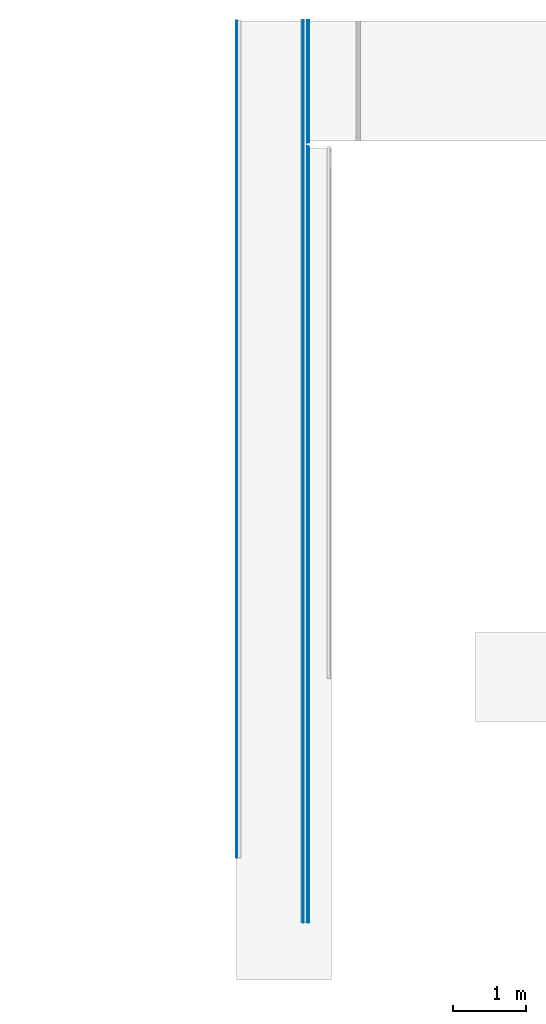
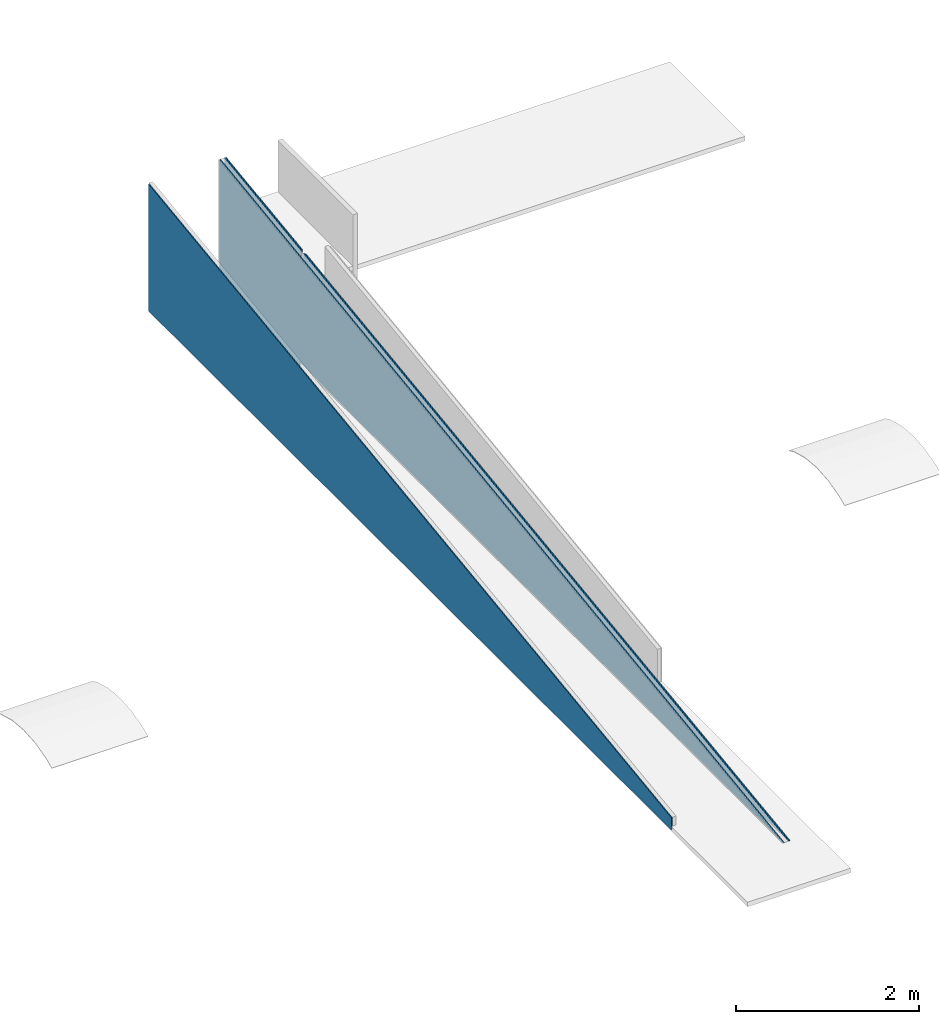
# One storey, part 3 of 4: 4 building element parts, 2 elements without a shape of their own.
"""IFC2X3 building model written with IfcOpenShell, lengths in metres."""

from ifc_helpers import new_model, entity, si_unit, converted_unit, derived_unit, money_unit, direction, frame, origin_with_axes, place, context, subcontext, project, spatial, polyline, outline, extrude, boolean, faceted_brep, material, type_object, element, aggregate, save


model = new_model("IFC2X3")

# Units and contexts
model_context = context("Model", 3, precision=1e-05, world=origin_with_axes(), true_north=direction((0.0, 1.0)))
body_context = subcontext(model_context, "Body", "Model", "MODEL_VIEW")
ifc_project = project(units=[si_unit("LENGTHUNIT", "METRE"), si_unit("AREAUNIT", "SQUARE_METRE"), si_unit("VOLUMEUNIT", "CUBIC_METRE"), converted_unit("PLANEANGLEUNIT", "DEGREE", entity("IfcPlaneAngleMeasure", 0.0174532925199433), si_unit("PLANEANGLEUNIT", "RADIAN"), dimensions=[0, 0, 0, 0, 0, 0, 0]), money_unit("CHF"), converted_unit("TIMEUNIT", "Year", entity("IfcTimeMeasure", 31557600.0), si_unit("TIMEUNIT", "SECOND"), dimensions=[0, 0, 1, 0, 0, 0, 0]), si_unit("MASSUNIT", "GRAM", prefix="KILO"), si_unit("THERMODYNAMICTEMPERATUREUNIT", "DEGREE_CELSIUS"), si_unit("LUMINOUSINTENSITYUNIT", "LUMEN"), si_unit("ENERGYUNIT", "JOULE", prefix="MEGA"), derived_unit("THERMALCONDUCTANCEUNIT", [(si_unit("POWERUNIT", "WATT"), 1), (si_unit("LENGTHUNIT", "METRE"), -1), (si_unit("THERMODYNAMICTEMPERATUREUNIT", "KELVIN"), -1)]), derived_unit("SPECIFICHEATCAPACITYUNIT", [(si_unit("ENERGYUNIT", "JOULE"), 1), (si_unit("MASSUNIT", "GRAM", prefix="KILO"), -1), (si_unit("THERMODYNAMICTEMPERATUREUNIT", "KELVIN"), -1)]), derived_unit("MASSDENSITYUNIT", [(si_unit("MASSUNIT", "GRAM", prefix="KILO"), 1), (si_unit("VOLUMEUNIT", "CUBIC_METRE"), -1)])], contexts=[model_context])

# Site, building, storey
site_placement = place(None, origin_with_axes())
site = spatial("IfcSite", under=ifc_project, at=site_placement, Name="Site", CompositionType="ELEMENT")
building_placement = place(site_placement, origin_with_axes())
building = spatial("IfcBuilding", under=site, at=building_placement, Name="Bâtiment", CompositionType="ELEMENT")
storey_placement = place(building_placement, frame((0.0, 0.0, 4.85), z_axis=(0.0, 0.0, 1.0), x_axis=(1.0, 0.0, 0.0)))
storey = spatial("IfcBuildingStorey", under=building, at=storey_placement, Name="1er étage", CompositionType="ELEMENT", Elevation=4.85)

# Wall, building element part
wall_type_1 = type_object("IfcWallType", Name="AL - Encoffrement: structure + 1x1 face 61", PredefinedType="ELEMENTEDWALL")
wall_1_placement = place(storey_placement, frame((25.91216849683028, 24.09673012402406, -1.980000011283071), z_axis=(0.0, 0.0, 1.0), x_axis=(3.982284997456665e-07, -0.9999999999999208, 0.0)))
wall_1 = element("IfcWall", 1, at=wall_1_placement, inside=storey, type_object=wall_type_1, Name="MUR_EXT-018", ObjectType="ELEMENTEDWALL")
ifc_material = material(Name="Finition int - Plaque de plâtre")
building_element_part_1_placement = place(wall_1_placement, origin_with_axes())
building_element_part_1 = element("IfcBuildingElementPart", 2, at=building_element_part_1_placement, material=ifc_material, Name="Finition int - Plaque de plâtre", context=body_context, shape_type="CSG", body=[
    boolean("DIFFERENCE", boolean("DIFFERENCE", boolean("DIFFERENCE", extrude(outline(polyline([(-0.6810000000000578, 0.0), (11.4402800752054, 0.0), (11.4402800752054, 0.01249999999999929), (-0.6810000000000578, 0.01249999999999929), (-0.6810000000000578, 0.0)])), origin_with_axes(), (0.0, 0.0, 1.0), 1.713257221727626), faceted_brep([(3.243780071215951e-07, 0.01249999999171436, 0.01249999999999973), (11.44028007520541, 0.01250000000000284, 0.01249999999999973), (11.4402800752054, 0.01249999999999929, 0.0), (-0.6810000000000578, 0.01249999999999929, 0.0), (-0.6810000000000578, 0.01249999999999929, 1.713257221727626), (11.4402800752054, 0.01249999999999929, 1.713257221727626), (11.44028007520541, 0.01249999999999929, 0.178348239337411), (6.7715149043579e-09, 0.01249999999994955, 1.703706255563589), (0.0, 0.0, 0.01249999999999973), (11.44028007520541, 0.0, 0.01249999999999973), (11.4402800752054, 0.0, 0.0), (-0.6810000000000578, 0.0, 0.0), (-0.6810000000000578, 0.0, 1.713257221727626), (11.4402800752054, 0.0, 1.713257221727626), (11.44028007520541, 0.0, 0.1783464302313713), (0.0, 0.0, 1.703704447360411)], [[[0, 1, 2, 3, 4, 5, 6, 7]], [[1, 0, 8, 9]], [[1, 9, 10, 2]], [[10, 11, 3, 2]], [[4, 3, 11, 12]], [[4, 12, 13, 5]], [[14, 6, 5, 13]], [[7, 6, 14, 15]], [[7, 15, 8, 0]], [[15, 14, 13, 12, 11, 10, 9, 8]]])), faceted_brep([(1.569989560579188e-06, 0.06049999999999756, 0.06050000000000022), (11.44028007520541, 0.06050000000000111, 0.06050000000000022), (11.44028007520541, 0.060499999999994, 0.0), (1.569989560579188e-06, 0.06049999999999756, 0.0), (3.153636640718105e-07, 0.01249999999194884, 0.06049999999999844), (11.44028007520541, 0.01250000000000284, 0.06050000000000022), (11.4402800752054, 0.01249999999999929, 0.0), (3.243780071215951e-07, 0.01249999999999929, 0.0)], [[[0, 1, 2, 3]], [[1, 0, 4, 5]], [[1, 5, 6, 2]], [[7, 3, 2, 6]], [[0, 3, 7, 4]], [[4, 7, 6, 5]]])), faceted_brep([(-0.01299997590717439, 0.06049999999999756, 1.705446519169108), (-0.01299997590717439, 0.06049999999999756, 0.0), (-0.6810000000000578, 0.060499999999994, 0.0), (-0.6810000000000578, 0.060499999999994, 1.713257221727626), (11.44028007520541, 0.060499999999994, 1.713257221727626), (11.44028007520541, 0.06050000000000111, 0.1783551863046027), (-0.01299999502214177, 0.01249999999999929, 1.705439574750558), (-0.01299999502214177, 0.01249999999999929, 0.0), (-0.6810000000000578, 0.01249999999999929, 0.0), (-0.6810000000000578, 0.01249999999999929, 1.713257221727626), (11.4402800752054, 0.01249999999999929, 1.713257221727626), (11.44028007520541, 0.01249999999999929, 0.178348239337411), (6.7715149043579e-09, 0.01249999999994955, 1.703706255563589)], [[[0, 1, 2, 3, 4, 5]], [[1, 0, 6, 7]], [[1, 7, 8, 2]], [[3, 2, 8, 9]], [[3, 9, 10, 4]], [[11, 5, 4, 10]], [[0, 5, 11, 12, 6]], [[12, 11, 10, 9, 8, 7, 6]]])),
])
aggregate(wall_1, [building_element_part_1])

# Wall, building element parts
wall_type_2 = type_object("IfcWallType", Name="AL - Cloison: structure + 2x2 faces 99", PredefinedType="ELEMENTEDWALL")
wall_2_placement = place(storey_placement, frame((26.90543336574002, 24.12972373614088, -1.980000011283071), z_axis=(0.0, 0.0, 1.0), x_axis=(0.0, -1.0, 0.0)))
wall_2 = element("IfcWall", 3, at=wall_2_placement, inside=storey, type_object=wall_type_2, Name="MUR_EXT-018", ObjectType="ELEMENTEDWALL")
building_element_part_2_placement = place(wall_2_placement, origin_with_axes())
building_element_part_2 = element("IfcBuildingElementPart", 4, at=building_element_part_2_placement, material=ifc_material, Name="Finition int - Plaque de plâtre", context=body_context, shape_type="CSG", body=[
    boolean("DIFFERENCE", boolean("DIFFERENCE", boolean("DIFFERENCE", boolean("DIFFERENCE", boolean("DIFFERENCE", extrude(outline(polyline([(0.0, -0.08650000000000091), (13.0729033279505, -0.08650000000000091), (13.0729033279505, -0.07400000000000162), (0.0, -0.07400000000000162), (0.0, -0.08650000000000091)])), origin_with_axes(), (0.0, 0.0, 1.0), 1.713257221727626), faceted_brep([(1.77397987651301, -0.08650000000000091, 0.06050000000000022), (12.35811315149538, -0.08650000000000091, 0.06050000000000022), (0.01999361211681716, -0.08650000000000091, 1.705568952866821), (0.01999361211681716, -0.08650000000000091, 0.0), (0.0, -0.08650000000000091, 0.0), (0.0, -0.08650000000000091, 1.713257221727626), (13.0729033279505, -0.08650000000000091, 1.713257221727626), (13.0729033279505, -0.08650000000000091, 0.0), (1.77397987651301, -0.08650000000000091, 0.0), (1.774004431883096, -0.09899999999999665, 0.06050000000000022), (12.35809958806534, -0.0990000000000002, 0.06050000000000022), (0.01999361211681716, -0.0990000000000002, 1.70556714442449), (0.01999361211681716, -0.0990000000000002, 0.0), (0.0, -0.0990000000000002, 0.0), (0.0, -0.0990000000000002, 1.713257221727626), (13.0729033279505, -0.0990000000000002, 1.713257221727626), (13.0729033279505, -0.0990000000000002, 0.0), (1.774004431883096, -0.09899999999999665, 0.0)], [[[0, 1, 2, 3, 4, 5, 6, 7, 8]], [[1, 0, 9, 10]], [[2, 1, 10, 11]], [[3, 2, 11, 12]], [[3, 12, 13, 4]], [[5, 4, 13, 14]], [[5, 14, 15, 6]], [[15, 16, 7, 6]], [[17, 8, 7, 16]], [[0, 8, 17, 9]], [[9, 17, 16, 15, 14, 13, 12, 11, 10]]])), faceted_brep([(1.773955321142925, -0.07400000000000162, 0.06050000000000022), (12.35812671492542, -0.07400000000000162, 0.06050000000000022), (0.01999361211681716, -0.07400000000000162, 1.705570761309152), (0.01999361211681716, -0.07400000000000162, 0.0), (0.0, -0.07400000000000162, 0.0), (0.0, -0.07400000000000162, 1.713257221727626), (13.0729033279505, -0.07400000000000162, 1.713257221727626), (13.0729033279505, -0.07400000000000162, 0.0), (1.773955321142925, -0.07400000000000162, 0.0), (1.77397987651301, -0.08650000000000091, 0.06050000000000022), (12.35811315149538, -0.08650000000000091, 0.06050000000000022), (0.01999361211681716, -0.08650000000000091, 1.705568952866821), (0.01999361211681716, -0.08650000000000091, 0.0), (0.0, -0.08650000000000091, 0.0), (0.0, -0.08650000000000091, 1.713257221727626), (13.0729033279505, -0.08650000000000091, 1.713257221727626), (13.0729033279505, -0.08650000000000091, 0.0), (1.77397987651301, -0.08650000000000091, 0.0)], [[[0, 1, 2, 3, 4, 5, 6, 7, 8]], [[9, 10, 1, 0]], [[2, 1, 10, 11]], [[12, 3, 2, 11]], [[3, 12, 13, 4]], [[5, 4, 13, 14]], [[5, 14, 15, 6]], [[15, 16, 7, 6]], [[17, 8, 7, 16]], [[8, 17, 9, 0]], [[9, 17, 16, 15, 14, 13, 12, 11, 10]]])), faceted_brep([(1.749004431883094, -0.0259999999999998, 1.475044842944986), (1.701004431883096, -0.0259999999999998, 1.481444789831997), (0.01999361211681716, -0.0259999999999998, 1.705577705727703), (0.01999361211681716, -0.0259999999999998, 0.0), (0.0, -0.0259999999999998, 0.0), (0.0, -0.0259999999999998, 1.713257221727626), (13.0729033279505, -0.0259999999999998, 1.713257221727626), (13.0729033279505, -0.0259999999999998, 0.0), (1.773861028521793, -0.0259999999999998, 0.0), (1.773861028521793, -0.0259999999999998, 0.06050000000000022), (12.35817879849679, -0.02600000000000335, 0.06050000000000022), (12.35812671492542, -0.07400000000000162, 0.06050000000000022), (0.01999361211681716, -0.07400000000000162, 1.705570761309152), (0.01999361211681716, -0.07400000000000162, 0.0), (0.0, -0.07400000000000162, 0.0), (0.0, -0.07400000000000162, 1.713257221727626), (13.0729033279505, -0.07400000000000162, 1.713257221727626), (13.0729033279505, -0.07400000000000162, 0.0), (1.773955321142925, -0.07400000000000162, 0.0), (1.773955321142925, -0.07400000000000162, 0.06050000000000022)], [[[0, 1, 2, 3, 4, 5, 6, 7, 8, 9, 10]], [[2, 1, 0, 10, 11, 12]], [[13, 3, 2, 12]], [[3, 13, 14, 4]], [[5, 4, 14, 15]], [[5, 15, 16, 6]], [[16, 17, 7, 6]], [[18, 8, 7, 17]], [[8, 18, 19, 9]], [[10, 9, 19, 11]], [[19, 18, 17, 16, 15, 14, 13, 12, 11]]])), faceted_brep([(1.701004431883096, -0.01299999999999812, 1.48144667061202), (1.688004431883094, -0.01299999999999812, 1.483179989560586), (0.01999361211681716, -0.01300000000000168, 1.705579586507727), (0.01999361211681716, -0.01300000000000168, 0.0), (0.0, -0.01300000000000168, 0.0), (0.0, -0.01300000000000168, 1.713257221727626), (13.0729033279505, -0.01300000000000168, 1.713257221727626), (13.0729033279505, -0.01300000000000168, 0.0), (1.7738354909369, -0.01300000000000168, 0.0), (1.7738354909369, -0.01300000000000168, 0.06050000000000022), (12.35819290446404, -0.01300000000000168, 0.06050000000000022), (1.761504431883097, -0.01299999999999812, 1.473380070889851), (1.749004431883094, -0.01299999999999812, 1.47504672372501), (1.749004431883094, -0.01300000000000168, 0.0), (1.701004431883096, -0.01300000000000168, 0.0), (1.701004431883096, -0.0259999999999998, 1.481444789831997), (0.01999361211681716, -0.0259999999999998, 1.705577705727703), (0.01999361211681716, -0.0259999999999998, 0.0), (0.0, -0.0259999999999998, 0.0), (0.0, -0.0259999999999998, 1.713257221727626), (13.0729033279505, -0.0259999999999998, 1.713257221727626), (13.0729033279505, -0.0259999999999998, 0.0), (1.773861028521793, -0.0259999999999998, 0.0), (1.773861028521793, -0.0259999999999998, 0.06050000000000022), (12.35817879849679, -0.02600000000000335, 0.06050000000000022), (1.749004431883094, -0.0259999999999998, 1.475044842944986), (1.749004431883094, -0.0259999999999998, 0.0), (1.701004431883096, -0.0259999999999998, 0.0)], [[[0, 1, 2, 3, 4, 5, 6, 7, 8, 9, 10, 11, 12, 13, 14]], [[2, 1, 0, 15, 16]], [[3, 2, 16, 17]], [[3, 17, 18, 4]], [[5, 4, 18, 19]], [[5, 19, 20, 6]], [[20, 21, 7, 6]], [[22, 8, 7, 21]], [[9, 8, 22, 23]], [[10, 9, 23, 24]], [[12, 11, 10, 24, 25]], [[13, 12, 25, 26]], [[27, 14, 13, 26]], [[0, 14, 27, 15]], [[15, 27, 26, 25, 24, 23, 22, 21, 20, 19, 18, 17, 16]]])), faceted_brep([(1.688004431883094, 0.0, 0.0), (1.688004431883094, 0.0, 1.48318187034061), (0.01999361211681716, 0.0, 1.705581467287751), (0.01999361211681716, 0.0, 0.0), (0.0, 0.0, 0.0), (0.0, 0.0, 1.713257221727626), (13.0729033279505, 0.0, 1.713257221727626), (13.0729033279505, 0.0, 0.0), (1.773809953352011, 0.0, 0.0), (1.773809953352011, 0.0, 0.06050000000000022), (12.35820701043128, 0.0, 0.06050000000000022), (1.761504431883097, 0.0, 1.473381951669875), (1.761504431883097, 0.0, 0.0), (1.688004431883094, -0.01300000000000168, 0.0), (1.688004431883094, -0.01299999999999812, 1.483179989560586), (0.01999361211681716, -0.01300000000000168, 1.705579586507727), (0.01999361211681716, -0.01300000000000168, 0.0), (0.0, -0.01300000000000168, 0.0), (0.0, -0.01300000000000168, 1.713257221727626), (13.0729033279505, -0.01300000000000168, 1.713257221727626), (13.0729033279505, -0.01300000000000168, 0.0), (1.7738354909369, -0.01300000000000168, 0.0), (1.7738354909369, -0.01300000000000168, 0.06050000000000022), (12.35819290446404, -0.01300000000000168, 0.06050000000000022), (1.761504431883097, -0.01299999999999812, 1.473380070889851), (1.761504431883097, -0.01300000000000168, 0.0)], [[[0, 1, 2, 3, 4, 5, 6, 7, 8, 9, 10, 11, 12]], [[1, 0, 13, 14]], [[2, 1, 14, 15]], [[3, 2, 15, 16]], [[3, 16, 17, 4]], [[5, 4, 17, 18]], [[5, 18, 19, 6]], [[19, 20, 7, 6]], [[21, 8, 7, 20]], [[9, 8, 21, 22]], [[10, 9, 22, 23]], [[11, 10, 23, 24]], [[12, 11, 24, 25]], [[13, 0, 12, 25]], [[14, 13, 25, 24, 23, 22, 21, 20, 19, 18, 17, 16, 15]]])),
])
building_element_part_3_placement = place(wall_2_placement, origin_with_axes())
building_element_part_3 = element("IfcBuildingElementPart", 5, at=building_element_part_3_placement, material=ifc_material, Name="Finition int - Plaque de plâtre", context=body_context, shape_type="CSG", body=[
    boolean("DIFFERENCE", boolean("DIFFERENCE", boolean("DIFFERENCE", boolean("DIFFERENCE", boolean("DIFFERENCE", extrude(outline(polyline([(0.0, -0.01300000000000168), (13.0729033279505, -0.01300000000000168), (13.0729033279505, 0.0), (0.0, 0.0), (0.0, -0.01300000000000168)])), origin_with_axes(), (0.0, 0.0, 1.0), 1.713257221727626), faceted_brep([(1.77397987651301, -0.08650000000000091, 0.06050000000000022), (12.35811315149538, -0.08650000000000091, 0.06050000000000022), (0.01999361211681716, -0.08650000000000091, 1.705568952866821), (0.01999361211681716, -0.08650000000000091, 0.0), (0.0, -0.08650000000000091, 0.0), (0.0, -0.08650000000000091, 1.713257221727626), (13.0729033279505, -0.08650000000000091, 1.713257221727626), (13.0729033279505, -0.08650000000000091, 0.0), (1.77397987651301, -0.08650000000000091, 0.0), (1.774004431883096, -0.09899999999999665, 0.06050000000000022), (12.35809958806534, -0.0990000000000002, 0.06050000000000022), (0.01999361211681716, -0.0990000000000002, 1.70556714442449), (0.01999361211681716, -0.0990000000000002, 0.0), (0.0, -0.0990000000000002, 0.0), (0.0, -0.0990000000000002, 1.713257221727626), (13.0729033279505, -0.0990000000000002, 1.713257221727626), (13.0729033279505, -0.0990000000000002, 0.0), (1.774004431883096, -0.09899999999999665, 0.0)], [[[0, 1, 2, 3, 4, 5, 6, 7, 8]], [[1, 0, 9, 10]], [[2, 1, 10, 11]], [[3, 2, 11, 12]], [[3, 12, 13, 4]], [[5, 4, 13, 14]], [[5, 14, 15, 6]], [[15, 16, 7, 6]], [[17, 8, 7, 16]], [[0, 8, 17, 9]], [[9, 17, 16, 15, 14, 13, 12, 11, 10]]])), faceted_brep([(1.773955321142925, -0.07400000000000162, 0.06050000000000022), (12.35812671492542, -0.07400000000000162, 0.06050000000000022), (0.01999361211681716, -0.07400000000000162, 1.705570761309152), (0.01999361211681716, -0.07400000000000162, 0.0), (0.0, -0.07400000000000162, 0.0), (0.0, -0.07400000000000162, 1.713257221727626), (13.0729033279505, -0.07400000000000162, 1.713257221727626), (13.0729033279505, -0.07400000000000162, 0.0), (1.773955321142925, -0.07400000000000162, 0.0), (1.77397987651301, -0.08650000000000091, 0.06050000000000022), (12.35811315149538, -0.08650000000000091, 0.06050000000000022), (0.01999361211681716, -0.08650000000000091, 1.705568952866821), (0.01999361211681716, -0.08650000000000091, 0.0), (0.0, -0.08650000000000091, 0.0), (0.0, -0.08650000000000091, 1.713257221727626), (13.0729033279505, -0.08650000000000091, 1.713257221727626), (13.0729033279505, -0.08650000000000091, 0.0), (1.77397987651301, -0.08650000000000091, 0.0)], [[[0, 1, 2, 3, 4, 5, 6, 7, 8]], [[9, 10, 1, 0]], [[2, 1, 10, 11]], [[12, 3, 2, 11]], [[3, 12, 13, 4]], [[5, 4, 13, 14]], [[5, 14, 15, 6]], [[15, 16, 7, 6]], [[17, 8, 7, 16]], [[8, 17, 9, 0]], [[9, 17, 16, 15, 14, 13, 12, 11, 10]]])), faceted_brep([(1.749004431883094, -0.0259999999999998, 1.475044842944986), (1.701004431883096, -0.0259999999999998, 1.481444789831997), (0.01999361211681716, -0.0259999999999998, 1.705577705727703), (0.01999361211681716, -0.0259999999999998, 0.0), (0.0, -0.0259999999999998, 0.0), (0.0, -0.0259999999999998, 1.713257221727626), (13.0729033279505, -0.0259999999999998, 1.713257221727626), (13.0729033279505, -0.0259999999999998, 0.0), (1.773861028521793, -0.0259999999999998, 0.0), (1.773861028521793, -0.0259999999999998, 0.06050000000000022), (12.35817879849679, -0.02600000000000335, 0.06050000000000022), (12.35812671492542, -0.07400000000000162, 0.06050000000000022), (0.01999361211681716, -0.07400000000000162, 1.705570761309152), (0.01999361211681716, -0.07400000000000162, 0.0), (0.0, -0.07400000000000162, 0.0), (0.0, -0.07400000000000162, 1.713257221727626), (13.0729033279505, -0.07400000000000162, 1.713257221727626), (13.0729033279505, -0.07400000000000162, 0.0), (1.773955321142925, -0.07400000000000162, 0.0), (1.773955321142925, -0.07400000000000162, 0.06050000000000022)], [[[0, 1, 2, 3, 4, 5, 6, 7, 8, 9, 10]], [[2, 1, 0, 10, 11, 12]], [[13, 3, 2, 12]], [[3, 13, 14, 4]], [[5, 4, 14, 15]], [[5, 15, 16, 6]], [[16, 17, 7, 6]], [[18, 8, 7, 17]], [[8, 18, 19, 9]], [[10, 9, 19, 11]], [[19, 18, 17, 16, 15, 14, 13, 12, 11]]])), faceted_brep([(1.701004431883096, -0.01299999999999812, 1.48144667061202), (1.688004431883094, -0.01299999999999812, 1.483179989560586), (0.01999361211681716, -0.01300000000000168, 1.705579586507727), (0.01999361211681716, -0.01300000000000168, 0.0), (0.0, -0.01300000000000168, 0.0), (0.0, -0.01300000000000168, 1.713257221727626), (13.0729033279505, -0.01300000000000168, 1.713257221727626), (13.0729033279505, -0.01300000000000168, 0.0), (1.7738354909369, -0.01300000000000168, 0.0), (1.7738354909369, -0.01300000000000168, 0.06050000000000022), (12.35819290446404, -0.01300000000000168, 0.06050000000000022), (1.761504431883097, -0.01299999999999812, 1.473380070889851), (1.749004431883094, -0.01299999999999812, 1.47504672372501), (1.749004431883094, -0.01300000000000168, 0.0), (1.701004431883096, -0.01300000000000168, 0.0), (1.701004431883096, -0.0259999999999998, 1.481444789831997), (0.01999361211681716, -0.0259999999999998, 1.705577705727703), (0.01999361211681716, -0.0259999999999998, 0.0), (0.0, -0.0259999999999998, 0.0), (0.0, -0.0259999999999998, 1.713257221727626), (13.0729033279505, -0.0259999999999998, 1.713257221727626), (13.0729033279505, -0.0259999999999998, 0.0), (1.773861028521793, -0.0259999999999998, 0.0), (1.773861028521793, -0.0259999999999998, 0.06050000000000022), (12.35817879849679, -0.02600000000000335, 0.06050000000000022), (1.749004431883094, -0.0259999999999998, 1.475044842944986), (1.749004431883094, -0.0259999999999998, 0.0), (1.701004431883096, -0.0259999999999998, 0.0)], [[[0, 1, 2, 3, 4, 5, 6, 7, 8, 9, 10, 11, 12, 13, 14]], [[2, 1, 0, 15, 16]], [[3, 2, 16, 17]], [[3, 17, 18, 4]], [[5, 4, 18, 19]], [[5, 19, 20, 6]], [[20, 21, 7, 6]], [[22, 8, 7, 21]], [[9, 8, 22, 23]], [[10, 9, 23, 24]], [[12, 11, 10, 24, 25]], [[13, 12, 25, 26]], [[27, 14, 13, 26]], [[0, 14, 27, 15]], [[15, 27, 26, 25, 24, 23, 22, 21, 20, 19, 18, 17, 16]]])), faceted_brep([(1.688004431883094, 0.0, 0.0), (1.688004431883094, 0.0, 1.48318187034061), (0.01999361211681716, 0.0, 1.705581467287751), (0.01999361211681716, 0.0, 0.0), (0.0, 0.0, 0.0), (0.0, 0.0, 1.713257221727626), (13.0729033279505, 0.0, 1.713257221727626), (13.0729033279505, 0.0, 0.0), (1.773809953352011, 0.0, 0.0), (1.773809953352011, 0.0, 0.06050000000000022), (12.35820701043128, 0.0, 0.06050000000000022), (1.761504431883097, 0.0, 1.473381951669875), (1.761504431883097, 0.0, 0.0), (1.688004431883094, -0.01300000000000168, 0.0), (1.688004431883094, -0.01299999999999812, 1.483179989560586), (0.01999361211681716, -0.01300000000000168, 1.705579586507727), (0.01999361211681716, -0.01300000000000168, 0.0), (0.0, -0.01300000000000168, 0.0), (0.0, -0.01300000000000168, 1.713257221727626), (13.0729033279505, -0.01300000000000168, 1.713257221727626), (13.0729033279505, -0.01300000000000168, 0.0), (1.7738354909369, -0.01300000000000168, 0.0), (1.7738354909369, -0.01300000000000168, 0.06050000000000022), (12.35819290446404, -0.01300000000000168, 0.06050000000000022), (1.761504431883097, -0.01299999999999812, 1.473380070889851), (1.761504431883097, -0.01300000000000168, 0.0)], [[[0, 1, 2, 3, 4, 5, 6, 7, 8, 9, 10, 11, 12]], [[1, 0, 13, 14]], [[2, 1, 14, 15]], [[3, 2, 15, 16]], [[3, 16, 17, 4]], [[5, 4, 17, 18]], [[5, 18, 19, 6]], [[19, 20, 7, 6]], [[21, 8, 7, 20]], [[9, 8, 21, 22]], [[10, 9, 22, 23]], [[11, 10, 23, 24]], [[12, 11, 24, 25]], [[13, 0, 12, 25]], [[14, 13, 25, 24, 23, 22, 21, 20, 19, 18, 17, 16, 15]]])),
])
building_element_part_4_placement = place(wall_2_placement, origin_with_axes())
building_element_part_4 = element("IfcBuildingElementPart", 6, at=building_element_part_4_placement, material=ifc_material, Name="Finition int - Plaque de plâtre", context=body_context, shape_type="CSG", body=[
    boolean("DIFFERENCE", boolean("DIFFERENCE", boolean("DIFFERENCE", boolean("DIFFERENCE", boolean("DIFFERENCE", extrude(outline(polyline([(0.0, -0.0259999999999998), (13.0729033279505, -0.0259999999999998), (13.0729033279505, -0.01300000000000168), (0.0, -0.01300000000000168), (0.0, -0.0259999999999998)])), origin_with_axes(), (0.0, 0.0, 1.0), 1.713257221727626), faceted_brep([(1.77397987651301, -0.08650000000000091, 0.06050000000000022), (12.35811315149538, -0.08650000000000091, 0.06050000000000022), (0.01999361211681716, -0.08650000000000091, 1.705568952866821), (0.01999361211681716, -0.08650000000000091, 0.0), (0.0, -0.08650000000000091, 0.0), (0.0, -0.08650000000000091, 1.713257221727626), (13.0729033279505, -0.08650000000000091, 1.713257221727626), (13.0729033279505, -0.08650000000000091, 0.0), (1.77397987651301, -0.08650000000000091, 0.0), (1.774004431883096, -0.09899999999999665, 0.06050000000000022), (12.35809958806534, -0.0990000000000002, 0.06050000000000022), (0.01999361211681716, -0.0990000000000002, 1.70556714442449), (0.01999361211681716, -0.0990000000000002, 0.0), (0.0, -0.0990000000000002, 0.0), (0.0, -0.0990000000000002, 1.713257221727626), (13.0729033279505, -0.0990000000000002, 1.713257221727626), (13.0729033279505, -0.0990000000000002, 0.0), (1.774004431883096, -0.09899999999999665, 0.0)], [[[0, 1, 2, 3, 4, 5, 6, 7, 8]], [[1, 0, 9, 10]], [[2, 1, 10, 11]], [[3, 2, 11, 12]], [[3, 12, 13, 4]], [[5, 4, 13, 14]], [[5, 14, 15, 6]], [[15, 16, 7, 6]], [[17, 8, 7, 16]], [[0, 8, 17, 9]], [[9, 17, 16, 15, 14, 13, 12, 11, 10]]])), faceted_brep([(1.773955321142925, -0.07400000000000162, 0.06050000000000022), (12.35812671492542, -0.07400000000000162, 0.06050000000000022), (0.01999361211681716, -0.07400000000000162, 1.705570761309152), (0.01999361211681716, -0.07400000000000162, 0.0), (0.0, -0.07400000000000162, 0.0), (0.0, -0.07400000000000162, 1.713257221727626), (13.0729033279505, -0.07400000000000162, 1.713257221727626), (13.0729033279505, -0.07400000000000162, 0.0), (1.773955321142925, -0.07400000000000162, 0.0), (1.77397987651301, -0.08650000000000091, 0.06050000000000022), (12.35811315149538, -0.08650000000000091, 0.06050000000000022), (0.01999361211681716, -0.08650000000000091, 1.705568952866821), (0.01999361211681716, -0.08650000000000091, 0.0), (0.0, -0.08650000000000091, 0.0), (0.0, -0.08650000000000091, 1.713257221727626), (13.0729033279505, -0.08650000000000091, 1.713257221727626), (13.0729033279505, -0.08650000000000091, 0.0), (1.77397987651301, -0.08650000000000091, 0.0)], [[[0, 1, 2, 3, 4, 5, 6, 7, 8]], [[9, 10, 1, 0]], [[2, 1, 10, 11]], [[12, 3, 2, 11]], [[3, 12, 13, 4]], [[5, 4, 13, 14]], [[5, 14, 15, 6]], [[15, 16, 7, 6]], [[17, 8, 7, 16]], [[8, 17, 9, 0]], [[9, 17, 16, 15, 14, 13, 12, 11, 10]]])), faceted_brep([(1.749004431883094, -0.0259999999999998, 1.475044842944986), (1.701004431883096, -0.0259999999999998, 1.481444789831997), (0.01999361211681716, -0.0259999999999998, 1.705577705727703), (0.01999361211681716, -0.0259999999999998, 0.0), (0.0, -0.0259999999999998, 0.0), (0.0, -0.0259999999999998, 1.713257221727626), (13.0729033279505, -0.0259999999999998, 1.713257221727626), (13.0729033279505, -0.0259999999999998, 0.0), (1.773861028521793, -0.0259999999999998, 0.0), (1.773861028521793, -0.0259999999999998, 0.06050000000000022), (12.35817879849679, -0.02600000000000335, 0.06050000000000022), (12.35812671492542, -0.07400000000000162, 0.06050000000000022), (0.01999361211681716, -0.07400000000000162, 1.705570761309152), (0.01999361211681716, -0.07400000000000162, 0.0), (0.0, -0.07400000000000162, 0.0), (0.0, -0.07400000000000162, 1.713257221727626), (13.0729033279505, -0.07400000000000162, 1.713257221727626), (13.0729033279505, -0.07400000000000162, 0.0), (1.773955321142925, -0.07400000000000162, 0.0), (1.773955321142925, -0.07400000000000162, 0.06050000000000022)], [[[0, 1, 2, 3, 4, 5, 6, 7, 8, 9, 10]], [[2, 1, 0, 10, 11, 12]], [[13, 3, 2, 12]], [[3, 13, 14, 4]], [[5, 4, 14, 15]], [[5, 15, 16, 6]], [[16, 17, 7, 6]], [[18, 8, 7, 17]], [[8, 18, 19, 9]], [[10, 9, 19, 11]], [[19, 18, 17, 16, 15, 14, 13, 12, 11]]])), faceted_brep([(1.701004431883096, -0.01299999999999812, 1.48144667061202), (1.688004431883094, -0.01299999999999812, 1.483179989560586), (0.01999361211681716, -0.01300000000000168, 1.705579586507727), (0.01999361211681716, -0.01300000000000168, 0.0), (0.0, -0.01300000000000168, 0.0), (0.0, -0.01300000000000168, 1.713257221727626), (13.0729033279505, -0.01300000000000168, 1.713257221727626), (13.0729033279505, -0.01300000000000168, 0.0), (1.7738354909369, -0.01300000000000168, 0.0), (1.7738354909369, -0.01300000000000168, 0.06050000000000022), (12.35819290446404, -0.01300000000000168, 0.06050000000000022), (1.761504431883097, -0.01299999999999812, 1.473380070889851), (1.749004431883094, -0.01299999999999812, 1.47504672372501), (1.749004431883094, -0.01300000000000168, 0.0), (1.701004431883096, -0.01300000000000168, 0.0), (1.701004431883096, -0.0259999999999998, 1.481444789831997), (0.01999361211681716, -0.0259999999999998, 1.705577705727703), (0.01999361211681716, -0.0259999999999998, 0.0), (0.0, -0.0259999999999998, 0.0), (0.0, -0.0259999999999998, 1.713257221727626), (13.0729033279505, -0.0259999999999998, 1.713257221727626), (13.0729033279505, -0.0259999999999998, 0.0), (1.773861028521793, -0.0259999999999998, 0.0), (1.773861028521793, -0.0259999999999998, 0.06050000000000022), (12.35817879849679, -0.02600000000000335, 0.06050000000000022), (1.749004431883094, -0.0259999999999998, 1.475044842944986), (1.749004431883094, -0.0259999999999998, 0.0), (1.701004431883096, -0.0259999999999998, 0.0)], [[[0, 1, 2, 3, 4, 5, 6, 7, 8, 9, 10, 11, 12, 13, 14]], [[2, 1, 0, 15, 16]], [[3, 2, 16, 17]], [[3, 17, 18, 4]], [[5, 4, 18, 19]], [[5, 19, 20, 6]], [[20, 21, 7, 6]], [[22, 8, 7, 21]], [[9, 8, 22, 23]], [[10, 9, 23, 24]], [[12, 11, 10, 24, 25]], [[13, 12, 25, 26]], [[27, 14, 13, 26]], [[0, 14, 27, 15]], [[15, 27, 26, 25, 24, 23, 22, 21, 20, 19, 18, 17, 16]]])), faceted_brep([(1.688004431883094, 0.0, 0.0), (1.688004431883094, 0.0, 1.48318187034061), (0.01999361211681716, 0.0, 1.705581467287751), (0.01999361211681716, 0.0, 0.0), (0.0, 0.0, 0.0), (0.0, 0.0, 1.713257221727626), (13.0729033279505, 0.0, 1.713257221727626), (13.0729033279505, 0.0, 0.0), (1.773809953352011, 0.0, 0.0), (1.773809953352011, 0.0, 0.06050000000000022), (12.35820701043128, 0.0, 0.06050000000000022), (1.761504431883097, 0.0, 1.473381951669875), (1.761504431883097, 0.0, 0.0), (1.688004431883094, -0.01300000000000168, 0.0), (1.688004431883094, -0.01299999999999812, 1.483179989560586), (0.01999361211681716, -0.01300000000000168, 1.705579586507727), (0.01999361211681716, -0.01300000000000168, 0.0), (0.0, -0.01300000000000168, 0.0), (0.0, -0.01300000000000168, 1.713257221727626), (13.0729033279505, -0.01300000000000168, 1.713257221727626), (13.0729033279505, -0.01300000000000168, 0.0), (1.7738354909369, -0.01300000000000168, 0.0), (1.7738354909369, -0.01300000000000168, 0.06050000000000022), (12.35819290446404, -0.01300000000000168, 0.06050000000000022), (1.761504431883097, -0.01299999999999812, 1.473380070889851), (1.761504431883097, -0.01300000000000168, 0.0)], [[[0, 1, 2, 3, 4, 5, 6, 7, 8, 9, 10, 11, 12]], [[1, 0, 13, 14]], [[2, 1, 14, 15]], [[3, 2, 15, 16]], [[3, 16, 17, 4]], [[5, 4, 17, 18]], [[5, 18, 19, 6]], [[19, 20, 7, 6]], [[21, 8, 7, 20]], [[9, 8, 21, 22]], [[10, 9, 22, 23]], [[11, 10, 23, 24]], [[12, 11, 24, 25]], [[13, 0, 12, 25]], [[14, 13, 25, 24, 23, 22, 21, 20, 19, 18, 17, 16, 15]]])),
])
aggregate(wall_2, [building_element_part_2, building_element_part_3, building_element_part_4])

save(model, "model.ifc")
